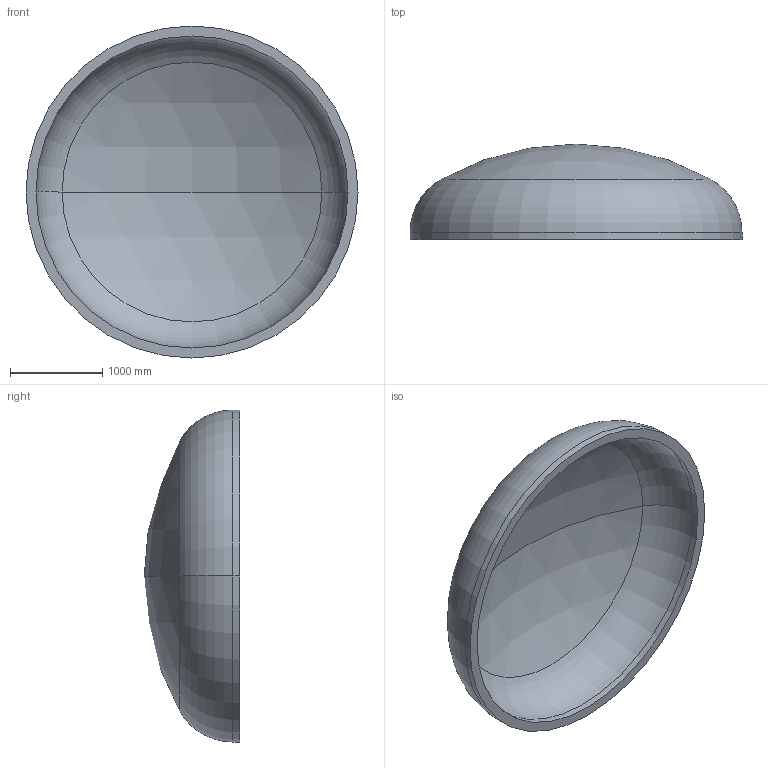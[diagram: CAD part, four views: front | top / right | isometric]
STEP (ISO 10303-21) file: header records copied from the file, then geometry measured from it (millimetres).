
FILE_DESCRIPTION (( 'STEP AP203' ), '1' );
FILE_NAME ('DIN 28013 Korbbogenform_-_Boden DIN 28013 - 3600 x 75 - I - s=108.step', '2016-07-01T20:51:48', ( '' ), ( '' ), 'SwSTEP 2.0', 'SolidWorks 2013', '' );
FILE_SCHEMA (( 'CONFIG_CONTROL_DESIGN' ));
Length unit declared in the file: millimetre
Products named in the file (1): DIN 28013 Korbbogenform_-_Boden DIN 28013 - 3600 x 75 - I - s=108
Bounding box: 3600 x 1034.98 x 3600 mm (x, y, z)
Volume: 1553185157.6 mm3; surface area: 29971915.1 mm2
Topology: 1 solids, 1 shells, 13 faces, 24 edges, 14 vertices
Faces by surface type: torus 4, cylinder 4, sphere 4, plane 1
Entity records: 407 total; most frequent: DIRECTION 72, CARTESIAN_POINT 52, ORIENTED_EDGE 48, AXIS2_PLACEMENT_3D 34, EDGE_CURVE 24, CIRCLE 20, VERTEX_POINT 14, EDGE_LOOP 14
